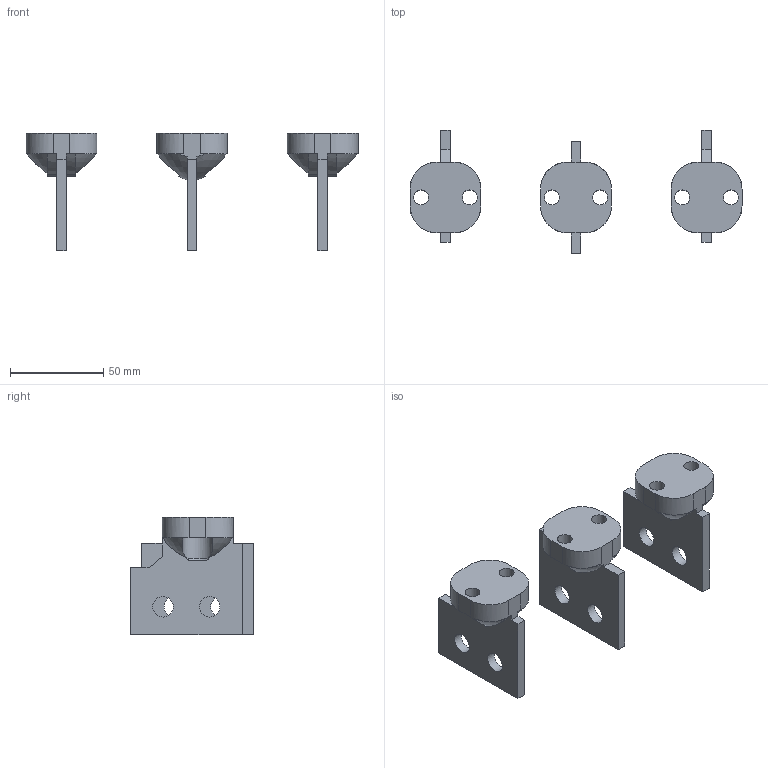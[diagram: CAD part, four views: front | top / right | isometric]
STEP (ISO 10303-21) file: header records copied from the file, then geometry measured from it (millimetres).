
FILE_DESCRIPTION(('STEP AP203'), '1');
FILE_NAME('雞碭噊 瞂貗鴀. 5擤 瞂贂', '', ('UNSPECIFIED'), ('UNSPECIFIED'), 'C3D Converter', 'C3D Toolkit', '');
FILE_SCHEMA(('CONFIG_CONTROL_DESIGN'));
Length unit declared in the file: millimetre
Assembly tree (3 placements, depth 2):
  (unnamed)
    (unnamed)
    (unnamed)
    (unnamed)
Bounding box: 178 x 66 x 63 mm (x, y, z)
Volume: 91452.1 mm3; surface area: 33198.9 mm2
Topology: 3 solids, 3 shells, 152 faces, 402 edges, 256 vertices
Faces by surface type: plane 90, cylinder 30, bspline 22, torus 10
Full cylindrical faces by diameter (mm): 8 x6, 11 x6
Entity records: 8484 total; most frequent: CARTESIAN_POINT 3428, ORIENTED_EDGE 780, DIRECTION 692, EDGE_CURVE 390, VERTEX_POINT 256, AXIS2_PLACEMENT_3D 240, LINE 212, VECTOR 212
